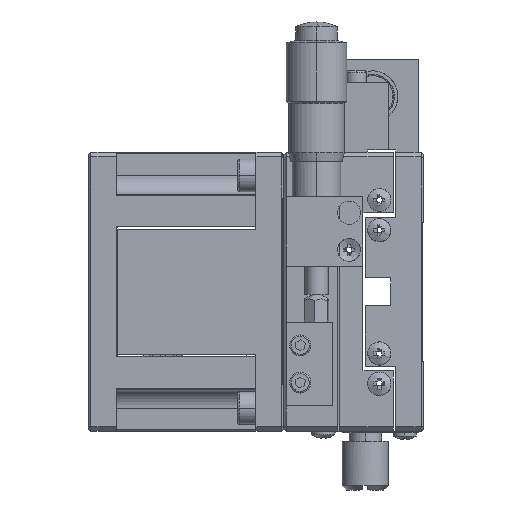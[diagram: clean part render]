
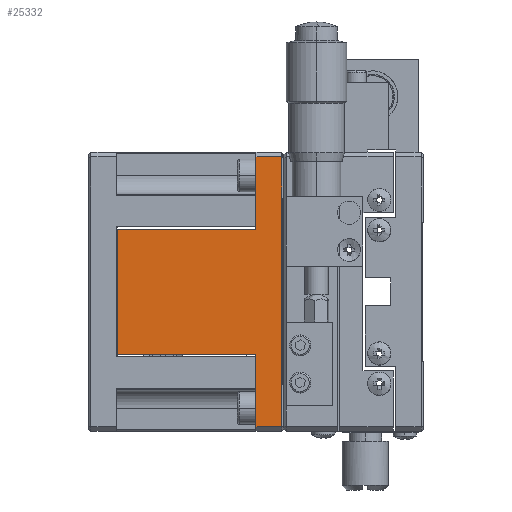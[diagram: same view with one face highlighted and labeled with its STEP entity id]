
A CAD part, left-side view. The second image highlights one B-rep face of the part: STEP entity #25332.
In plain terms, the highlighted planar face has unit normal (-1, 0, 0).
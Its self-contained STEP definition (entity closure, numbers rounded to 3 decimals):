
#468 = VERTEX_POINT ( 'NONE', #30920 ) ;
#815 = CARTESIAN_POINT ( 'NONE',  ( -4.021, 18.175, 106.583 ) ) ;
#961 = CARTESIAN_POINT ( 'NONE',  ( -4.021, 12.675, 91.083 ) ) ;
#1484 = VECTOR ( 'NONE', #38863, 1000. ) ;
#3003 = EDGE_CURVE ( 'NONE', #41052, #11717, #42570, .T. ) ;
#4114 = CARTESIAN_POINT ( 'NONE',  ( -4.021, 18.175, 91.083 ) ) ;
#4503 = EDGE_CURVE ( 'NONE', #11573, #16420, #20397, .T. ) ;
#5143 = CARTESIAN_POINT ( 'NONE',  ( -4.021, 12.675, 91.083 ) ) ;
#5154 = VERTEX_POINT ( 'NONE', #17315 ) ;
#5284 = VECTOR ( 'NONE', #35213, 1000. ) ;
#5415 = DIRECTION ( 'NONE',  ( 0., -1., 0. ) ) ;
#7842 = ORIENTED_EDGE ( 'NONE', *, *, #17715, .F. ) ;
#8385 = LINE ( 'NONE', #12124, #46773 ) ;
#8473 = LINE ( 'NONE', #5143, #16412 ) ;
#8738 = CARTESIAN_POINT ( 'NONE',  ( -4.021, 12.675, 149.083 ) ) ;
#10307 = VECTOR ( 'NONE', #46341, 1000. ) ;
#11573 = VERTEX_POINT ( 'NONE', #23196 ) ;
#11717 = VERTEX_POINT ( 'NONE', #815 ) ;
#12110 = ORIENTED_EDGE ( 'NONE', *, *, #4503, .F. ) ;
#12124 = CARTESIAN_POINT ( 'NONE',  ( -4.021, 12.675, 91.083 ) ) ;
#12656 = VECTOR ( 'NONE', #32964, 1000. ) ;
#14759 = EDGE_LOOP ( 'NONE', ( #26411, #36392, #12110, #24997, #27516, #29576, #7842, #21438 ) ) ;
#14811 = CARTESIAN_POINT ( 'NONE',  ( -4.021, 12.675, 106.583 ) ) ;
#14843 = LINE ( 'NONE', #20967, #10307 ) ;
#16154 = VECTOR ( 'NONE', #23853, 1000. ) ;
#16412 = VECTOR ( 'NONE', #27078, 1000. ) ;
#16420 = VERTEX_POINT ( 'NONE', #42369 ) ;
#17315 = CARTESIAN_POINT ( 'NONE',  ( -4.021, 18.175, 133.583 ) ) ;
#17715 = EDGE_CURVE ( 'NONE', #11717, #28337, #22808, .T. ) ;
#17883 = DIRECTION ( 'NONE',  ( 0., 0., -1. ) ) ;
#17928 = EDGE_CURVE ( 'NONE', #468, #5154, #14843, .T. ) ;
#20397 = LINE ( 'NONE', #8738, #42433 ) ;
#20967 = CARTESIAN_POINT ( 'NONE',  ( -4.021, 12.675, 133.583 ) ) ;
#21381 = CARTESIAN_POINT ( 'NONE',  ( -4.021, 12.675, 149.083 ) ) ;
#21438 = ORIENTED_EDGE ( 'NONE', *, *, #3003, .F. ) ;
#22209 = CARTESIAN_POINT ( 'NONE',  ( -4.021, 47.875, 106.583 ) ) ;
#22808 = LINE ( 'NONE', #14811, #12656 ) ;
#23196 = CARTESIAN_POINT ( 'NONE',  ( -4.021, 18.175, 149.083 ) ) ;
#23853 = DIRECTION ( 'NONE',  ( 0., 0., 1. ) ) ;
#24997 = ORIENTED_EDGE ( 'NONE', *, *, #41234, .F. ) ;
#25332 = ADVANCED_FACE ( 'NONE', ( #33818 ), #42957, .F. ) ;
#26411 = ORIENTED_EDGE ( 'NONE', *, *, #39436, .F. ) ;
#27078 = DIRECTION ( 'NONE',  ( 0., 0., 1. ) ) ;
#27516 = ORIENTED_EDGE ( 'NONE', *, *, #17928, .F. ) ;
#28337 = VERTEX_POINT ( 'NONE', #22209 ) ;
#29576 = ORIENTED_EDGE ( 'NONE', *, *, #40059, .F. ) ;
#30250 = DIRECTION ( 'NONE',  ( 0., 1., 0. ) ) ;
#30920 = CARTESIAN_POINT ( 'NONE',  ( -4.021, 47.875, 133.583 ) ) ;
#32964 = DIRECTION ( 'NONE',  ( 0., 1., 0. ) ) ;
#33818 = FACE_OUTER_BOUND ( 'NONE', #14759, .T. ) ;
#35213 = DIRECTION ( 'NONE',  ( 0., 0., 1. ) ) ;
#35857 = DIRECTION ( 'NONE',  ( 1., 0., 0. ) ) ;
#36069 = AXIS2_PLACEMENT_3D ( 'NONE', #21381, #35857, #17883 ) ;
#36392 = ORIENTED_EDGE ( 'NONE', *, *, #38246, .T. ) ;
#36766 = VERTEX_POINT ( 'NONE', #961 ) ;
#37161 = LINE ( 'NONE', #42641, #1484 ) ;
#37734 = CARTESIAN_POINT ( 'NONE',  ( -4.021, 18.175, 149.083 ) ) ;
#38246 = EDGE_CURVE ( 'NONE', #36766, #16420, #8473, .T. ) ;
#38854 = CARTESIAN_POINT ( 'NONE',  ( -4.021, 18.175, 149.083 ) ) ;
#38863 = DIRECTION ( 'NONE',  ( 0., 0., 1. ) ) ;
#39436 = EDGE_CURVE ( 'NONE', #36766, #41052, #8385, .T. ) ;
#40059 = EDGE_CURVE ( 'NONE', #28337, #468, #37161, .T. ) ;
#41052 = VERTEX_POINT ( 'NONE', #4114 ) ;
#41234 = EDGE_CURVE ( 'NONE', #5154, #11573, #45510, .T. ) ;
#42369 = CARTESIAN_POINT ( 'NONE',  ( -4.021, 12.675, 149.083 ) ) ;
#42433 = VECTOR ( 'NONE', #5415, 1000. ) ;
#42570 = LINE ( 'NONE', #38854, #5284 ) ;
#42641 = CARTESIAN_POINT ( 'NONE',  ( -4.021, 47.875, 149.083 ) ) ;
#42957 = PLANE ( 'NONE',  #36069 ) ;
#45510 = LINE ( 'NONE', #37734, #16154 ) ;
#46341 = DIRECTION ( 'NONE',  ( 0., -1., 0. ) ) ;
#46773 = VECTOR ( 'NONE', #30250, 1000. ) ;
